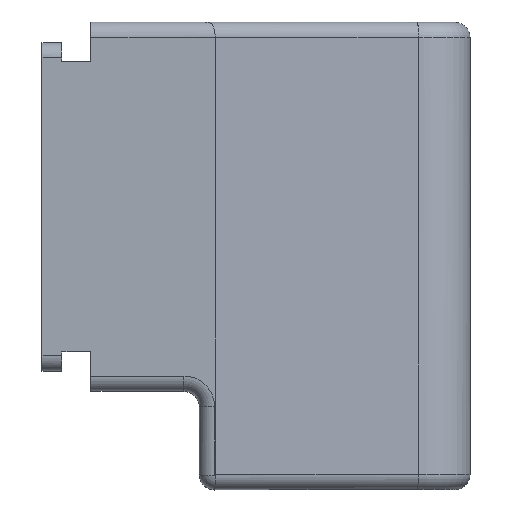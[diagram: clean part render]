
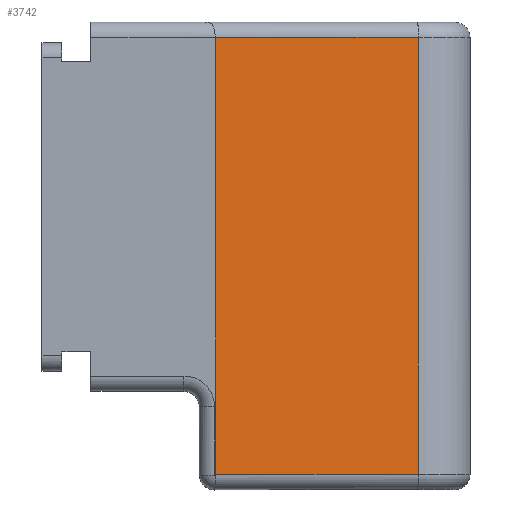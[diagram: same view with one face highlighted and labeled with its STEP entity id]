
A CAD part, top view. The second image highlights one B-rep face of the part: STEP entity #3742.
In plain terms, the highlighted planar face has unit normal (0.052, 0, 0.999).
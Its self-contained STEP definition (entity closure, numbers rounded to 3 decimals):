
#941=DIRECTION('',(0.001,-1.,0.));
#942=VECTOR('',#941,40.003);
#943=CARTESIAN_POINT('',(34.424,20.003,22.394));
#944=LINE('',#943,#942);
#983=DIRECTION('',(0.999,-0.001,-0.052));
#984=VECTOR('',#983,18.599);
#985=CARTESIAN_POINT('',(34.424,20.003,22.394));
#986=LINE('',#985,#984);
#990=DIRECTION('',(0.,-1.,0.));
#991=VECTOR('',#990,39.968);
#992=CARTESIAN_POINT('',(52.997,19.984,21.421));
#993=LINE('',#992,#991);
#997=CARTESIAN_POINT('',(34.424,20.003,22.394));
#1043=CARTESIAN_POINT('',(52.997,19.984,21.421));
#1193=DIRECTION('',(0.999,0.001,-0.052));
#1194=VECTOR('',#1193,18.565);
#1195=CARTESIAN_POINT('',(34.457,-19.999,22.394));
#1196=LINE('',#1195,#1194);
#2478=VERTEX_POINT('',#997);
#2481=VERTEX_POINT('',#1043);
#2534=CARTESIAN_POINT('',(34.457,-19.999,22.394));
#2535=VERTEX_POINT('',#2534);
#2558=CARTESIAN_POINT('',(52.997,-19.983,21.423));
#2559=VERTEX_POINT('',#2558);
#3728=CARTESIAN_POINT('',(34.458,-21.399,22.394));
#3729=DIRECTION('',(-0.052,0.,-0.999));
#3730=DIRECTION('',(0.999,0.001,-0.052));
#3731=AXIS2_PLACEMENT_3D('',#3728,#3729,#3730);
#3732=PLANE('',#3731);
#3734=ORIENTED_EDGE('',*,*,#3733,.T.);
#3736=ORIENTED_EDGE('',*,*,#3735,.T.);
#3738=ORIENTED_EDGE('',*,*,#3737,.F.);
#3739=ORIENTED_EDGE('',*,*,#3692,.F.);
#3740=EDGE_LOOP('',(#3734,#3736,#3738,#3739));
#3741=FACE_OUTER_BOUND('',#3740,.F.);
#3692=EDGE_CURVE('',#2478,#2535,#944,.T.);
#3733=EDGE_CURVE('',#2478,#2481,#986,.T.);
#3735=EDGE_CURVE('',#2481,#2559,#993,.T.);
#3737=EDGE_CURVE('',#2535,#2559,#1196,.T.);
#3742=ADVANCED_FACE('',(#3741),#3732,.F.);
